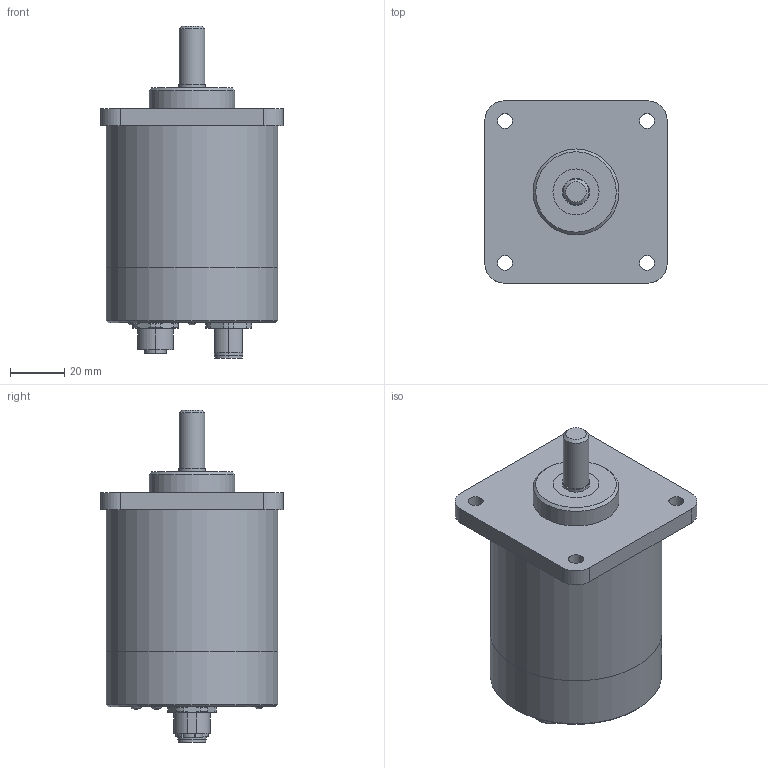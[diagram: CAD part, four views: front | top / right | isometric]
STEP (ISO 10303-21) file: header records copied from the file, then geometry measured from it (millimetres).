
FILE_DESCRIPTION(/* description */ ('Alibre Inc.'),/* implementation_level */ '2;1');
FILE_NAME(/* name */ 'export0',/* time_stamp */ '2010-05-25T09:10:59-04:00',/* author */ (''),/* organization */ (''),/* preprocessor_version */ 'ST-DEVELOPER v10',/* originating_system */ 'Alibre',/* authorisation */ '');
FILE_SCHEMA (('CONFIG_CONTROL_DESIGN'));
Length unit declared in the file: centimetre
Products named in the file (11): ID_1; ID_2; ID_3; ID_4; ID_5; ID_6; ID_7; ID_8; ID_9; ID_10
Bounding box: 67.31 x 67.31 x 122.63 mm (x, y, z)
Volume: 266697.5 mm3; surface area: 49205.1 mm2
Topology: 11 solids, 11 shells, 282 faces, 619 edges, 399 vertices
Faces by surface type: plane 122, cylinder 113, cone 36, sphere 4, bspline 4, torus 3
Full cylindrical faces by diameter (mm): 2.92 x2, 3 x20, 3.96 x4, 5.537 x4, 9.525 x1, 10 x3, 11.5 x2, 17 x2, 24 x1, 26 x2, 31.75 x1, 58.72 x2, 63.5 x2
Entity records: 8396 total; most frequent: CARTESIAN_POINT 1393, DIRECTION 1240, ORIENTED_EDGE 1084, AXIS2_PLACEMENT_3D 568, EDGE_CURVE 542, EDGE_LOOP 388, FACE_BOUND 388, VERTEX_POINT 382
